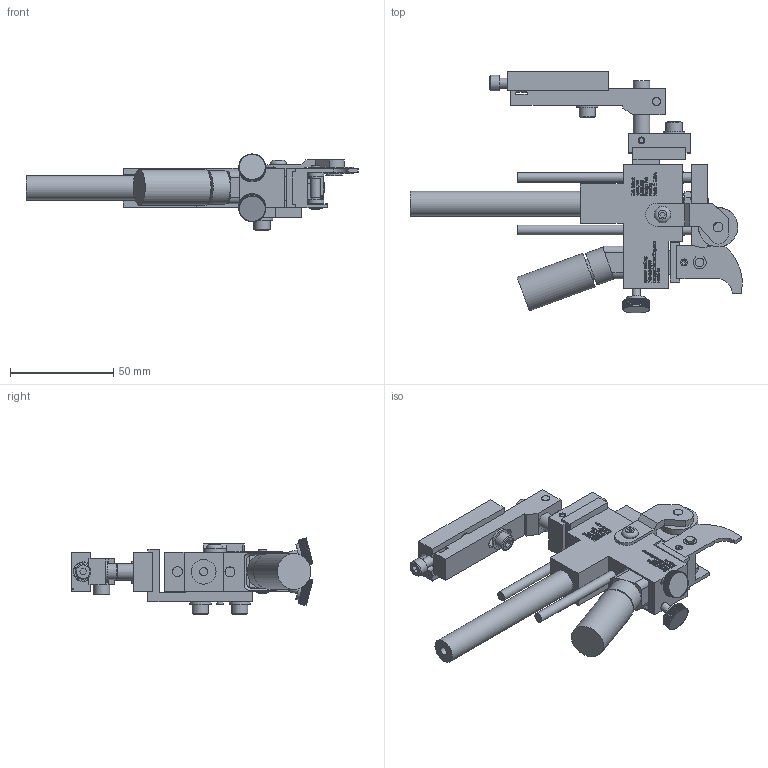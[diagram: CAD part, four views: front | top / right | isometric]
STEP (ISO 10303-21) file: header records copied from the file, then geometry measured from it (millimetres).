
FILE_DESCRIPTION((''),'2;1');
FILE_NAME('C:\Documents and Settings\Ron\My Documents\Inventor\Sprinter Drawing\Machines in Inventor\Model 44\Type\Std\Brkt\Ret\Model 44 Standard Type Retracted w brkt.stp','2009-01-14T11:04:20',('Ron'),(''),'Autodesk Inventor 2008','Autodesk Inventor 2008','');
FILE_SCHEMA(('AUTOMOTIVE_DESIGN { 1 0 10303 214 1 1 1 1 }'));
Length unit declared in the file: inch
Products named in the file (1): Model 44 Standard Type Retracted w brkt
Bounding box: 160.74 x 117.12 x 36.82 mm (x, y, z)
Volume: 104103.4 mm3; surface area: 49706.6 mm2
Topology: 31 solids, 31 shells, 6245 faces, 15520 edges, 9601 vertices
Faces by surface type: plane 4393, bspline 1326, cylinder 474, cone 48, torus 4
Full cylindrical faces by diameter (mm): 3.175 x4, 3.302 x1, 3.505 x1, 3.962 x1, 4.064 x7, 4.166 x1, 4.699 x1, 4.75 x5, 4.826 x7, 5.08 x1, 5.156 x5, 5.207 x2, 5.41 x2, 6.096 x1, 6.68 x1, 7.239 x1, 7.62 x1, 7.925 x7, 7.938 x1, 8.128 x1, 9.017 x1, 9.525 x2, 10.312 x4, 10.922 x1, 11.036 x1, 11.938 x2, 14.478 x1, 16.256 x1, 17.272 x1, 19.05 x1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
Entity records: 198979 total; most frequent: CARTESIAN_POINT 54453, ORIENTED_EDGE 30576, DIRECTION 23747, EDGE_CURVE 15288, VECTOR 11505, LINE 11505, VERTEX_POINT 9528, EDGE_LOOP 6808
